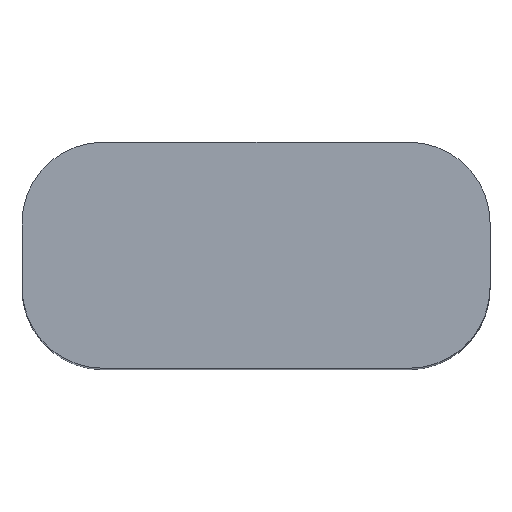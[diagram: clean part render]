
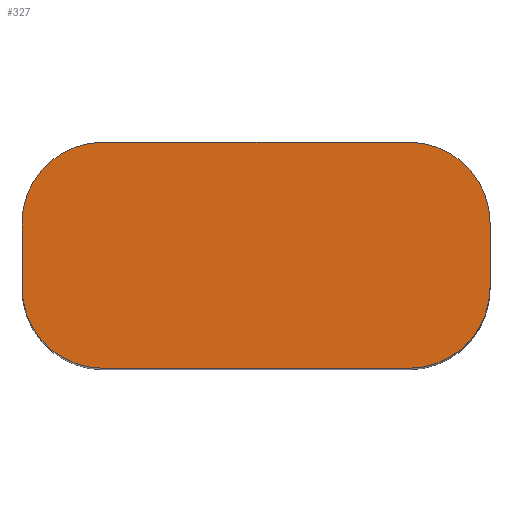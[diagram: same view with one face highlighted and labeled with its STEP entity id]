
A CAD part, top view. The second image highlights one B-rep face of the part: STEP entity #327.
In plain terms, the highlighted planar face has unit normal (0, 0, 1).
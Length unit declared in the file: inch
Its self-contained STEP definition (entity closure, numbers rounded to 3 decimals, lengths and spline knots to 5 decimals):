
#7 = VERTEX_POINT ( 'NONE', #22 ) ;
#13 = AXIS2_PLACEMENT_3D ( 'NONE', #71, #70, #134 ) ;
#18 = CARTESIAN_POINT ( 'NONE',  ( 0.475, 0.25, 1.315 ) ) ;
#22 = CARTESIAN_POINT ( 'NONE',  ( -0.725, 0.45, 1.315 ) ) ;
#24 = CIRCLE ( 'NONE', #349, 0.25 ) ;
#30 = AXIS2_PLACEMENT_3D ( 'NONE', #18, #220, #196 ) ;
#40 = VECTOR ( 'NONE', #162, 39.37008 ) ;
#41 = EDGE_CURVE ( 'NONE', #289, #374, #156, .T. ) ;
#42 = CARTESIAN_POINT ( 'NONE',  ( -0.475, 0.7, 1.315 ) ) ;
#46 = CARTESIAN_POINT ( 'NONE',  ( -0.725, 0.25, 1.315 ) ) ;
#57 = CARTESIAN_POINT ( 'NONE',  ( 0.725, 0.7, 1.315 ) ) ;
#64 = LINE ( 'NONE', #360, #301 ) ;
#70 = DIRECTION ( 'NONE',  ( 0., 0., 1. ) ) ;
#71 = CARTESIAN_POINT ( 'NONE',  ( 0.475, 0.45, 1.315 ) ) ;
#72 = VERTEX_POINT ( 'NONE', #42 ) ;
#73 = DIRECTION ( 'NONE',  ( 0., 0., 1. ) ) ;
#74 = VECTOR ( 'NONE', #129, 39.37008 ) ;
#75 = CARTESIAN_POINT ( 'NONE',  ( 0.725, 0.45, 1.315 ) ) ;
#78 = EDGE_LOOP ( 'NONE', ( #255, #323, #100, #137, #314, #298, #161, #272 ) ) ;
#81 = EDGE_CURVE ( 'NONE', #330, #289, #253, .T. ) ;
#90 = CARTESIAN_POINT ( 'NONE',  ( 0.725, 0.25, 1.315 ) ) ;
#100 = ORIENTED_EDGE ( 'NONE', *, *, #200, .F. ) ;
#115 = CIRCLE ( 'NONE', #13, 0.25 ) ;
#116 = CARTESIAN_POINT ( 'NONE',  ( 0.725, 0., 1.315 ) ) ;
#121 = DIRECTION ( 'NONE',  ( 0., -1., 0. ) ) ;
#125 = LINE ( 'NONE', #277, #74 ) ;
#128 = EDGE_CURVE ( 'NONE', #285, #189, #115, .T. ) ;
#129 = DIRECTION ( 'NONE',  ( 0., -1., 0. ) ) ;
#134 = DIRECTION ( 'NONE',  ( -1., 0., 0. ) ) ;
#137 = ORIENTED_EDGE ( 'NONE', *, *, #128, .T. ) ;
#141 = EDGE_CURVE ( 'NONE', #7, #330, #125, .T. ) ;
#149 = CARTESIAN_POINT ( 'NONE',  ( 0.475, 0.7, 1.315 ) ) ;
#152 = EDGE_CURVE ( 'NONE', #72, #189, #64, .T. ) ;
#156 = LINE ( 'NONE', #116, #40 ) ;
#161 = ORIENTED_EDGE ( 'NONE', *, *, #141, .T. ) ;
#162 = DIRECTION ( 'NONE',  ( 1., 0., 0. ) ) ;
#166 = CARTESIAN_POINT ( 'NONE',  ( 0.475, 0., 1.315 ) ) ;
#169 = CIRCLE ( 'NONE', #30, 0.25 ) ;
#170 = PLANE ( 'NONE',  #261 ) ;
#182 = VECTOR ( 'NONE', #121, 39.37008 ) ;
#187 = AXIS2_PLACEMENT_3D ( 'NONE', #281, #73, #363 ) ;
#188 = DIRECTION ( 'NONE',  ( 1., 0., 0. ) ) ;
#189 = VERTEX_POINT ( 'NONE', #149 ) ;
#196 = DIRECTION ( 'NONE',  ( -1., 0., 0. ) ) ;
#200 = EDGE_CURVE ( 'NONE', #285, #246, #262, .T. ) ;
#220 = DIRECTION ( 'NONE',  ( 0., 0., 1. ) ) ;
#221 = EDGE_CURVE ( 'NONE', #72, #7, #24, .T. ) ;
#246 = VERTEX_POINT ( 'NONE', #90 ) ;
#250 = EDGE_CURVE ( 'NONE', #374, #246, #169, .T. ) ;
#253 = CIRCLE ( 'NONE', #187, 0.25 ) ;
#255 = ORIENTED_EDGE ( 'NONE', *, *, #41, .T. ) ;
#261 = AXIS2_PLACEMENT_3D ( 'NONE', #283, #371, #364 ) ;
#262 = LINE ( 'NONE', #57, #182 ) ;
#264 = DIRECTION ( 'NONE',  ( 0., 0., 1. ) ) ;
#266 = FACE_OUTER_BOUND ( 'NONE', #78, .T. ) ;
#272 = ORIENTED_EDGE ( 'NONE', *, *, #81, .T. ) ;
#277 = CARTESIAN_POINT ( 'NONE',  ( -0.725, 0.7, 1.315 ) ) ;
#281 = CARTESIAN_POINT ( 'NONE',  ( -0.475, 0.25, 1.315 ) ) ;
#283 = CARTESIAN_POINT ( 'NONE',  ( 0.725, 0.7, 1.315 ) ) ;
#285 = VERTEX_POINT ( 'NONE', #75 ) ;
#287 = CARTESIAN_POINT ( 'NONE',  ( -0.475, 0.45, 1.315 ) ) ;
#289 = VERTEX_POINT ( 'NONE', #341 ) ;
#298 = ORIENTED_EDGE ( 'NONE', *, *, #221, .T. ) ;
#301 = VECTOR ( 'NONE', #188, 39.37008 ) ;
#314 = ORIENTED_EDGE ( 'NONE', *, *, #152, .F. ) ;
#323 = ORIENTED_EDGE ( 'NONE', *, *, #250, .T. ) ;
#327 = ADVANCED_FACE ( 'NONE', ( #266 ), #170, .F. ) ;
#330 = VERTEX_POINT ( 'NONE', #46 ) ;
#341 = CARTESIAN_POINT ( 'NONE',  ( -0.475, 0., 1.315 ) ) ;
#346 = DIRECTION ( 'NONE',  ( -1., 0., 0. ) ) ;
#349 = AXIS2_PLACEMENT_3D ( 'NONE', #287, #264, #346 ) ;
#360 = CARTESIAN_POINT ( 'NONE',  ( 0.725, 0.7, 1.315 ) ) ;
#363 = DIRECTION ( 'NONE',  ( -1., 0., 0. ) ) ;
#364 = DIRECTION ( 'NONE',  ( -1., 0., 0. ) ) ;
#371 = DIRECTION ( 'NONE',  ( 0., 0., -1. ) ) ;
#374 = VERTEX_POINT ( 'NONE', #166 ) ;
